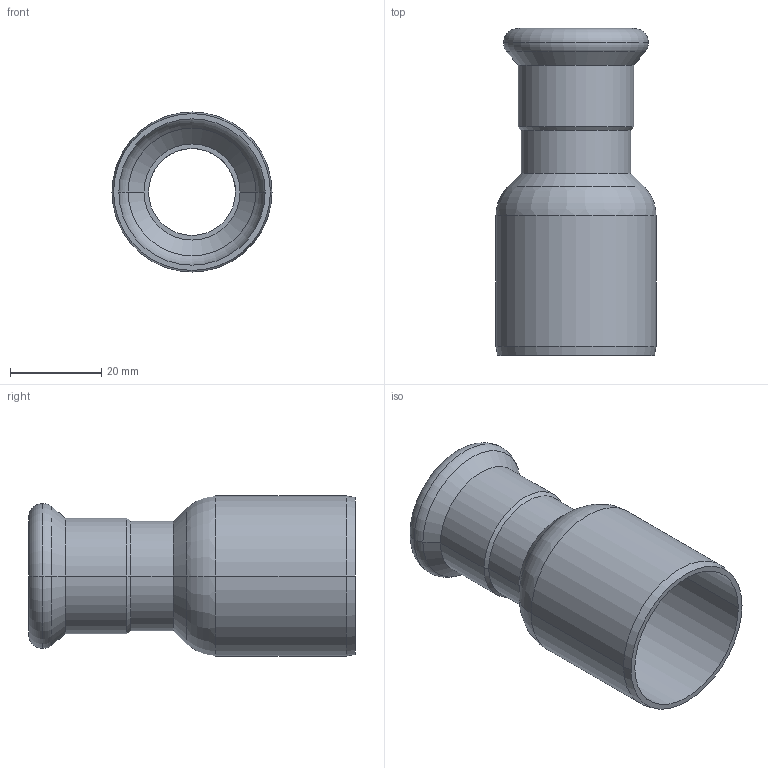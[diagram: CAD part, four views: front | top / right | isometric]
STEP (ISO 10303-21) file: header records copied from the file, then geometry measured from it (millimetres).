
FILE_DESCRIPTION(('CoCreate Modeling STEP Export'),'2;1');
FILE_NAME('C1407 22x35.stp','2014-11-07T16:29:44',(''),(''),'CoCreate Modeling STEP processor for AP214 (Solid Model)','CoCreate Modeling 17.00A 17-Jun-2010 (C) Parametric Technology GmbH','');
FILE_SCHEMA(('AUTOMOTIVE_DESIGN { 1 0 10303 214 1 1 1 1 }'));
Length unit declared in the file: millimetre
Products named in the file (2): C1407_22x35
Assembly tree (1 placements, depth 2):
  C1407_22x35
    C1407_22x35
Bounding box: 35 x 71.5 x 35 mm (x, y, z)
Volume: 11692 mm3; surface area: 13965.3 mm2
Topology: 1 solids, 1 shells, 39 faces, 80 edges, 46 vertices
Faces by surface type: cylinder 16, cone 10, torus 8, plane 5
Entity records: 871 total; most frequent: ORIENTED_EDGE 160, DIRECTION 132, CARTESIAN_POINT 125, EDGE_CURVE 80, AXIS2_PLACEMENT_3D 53, VERTEX_POINT 46, EDGE_LOOP 44, FACE_OUTER_BOUND 39
